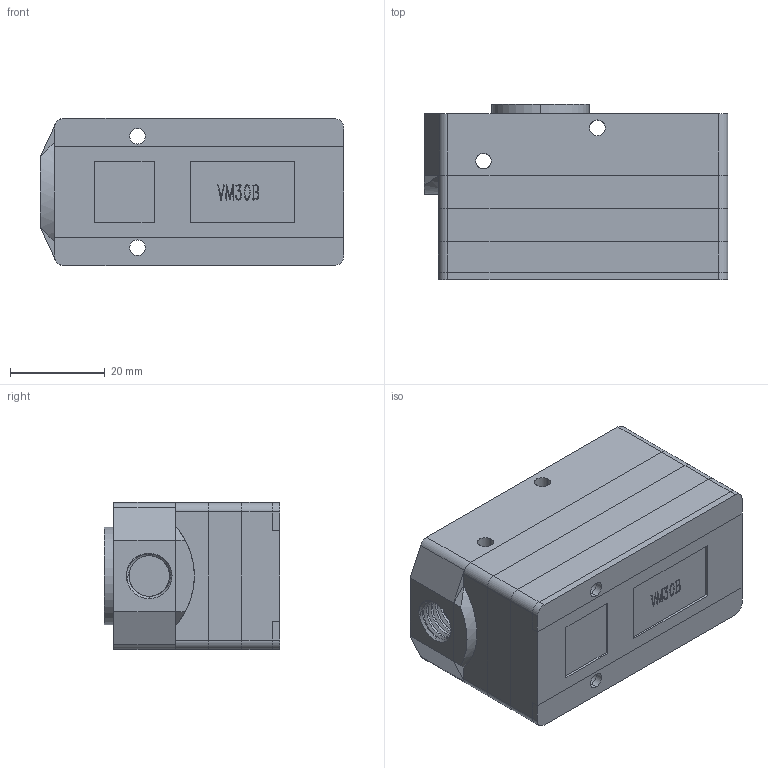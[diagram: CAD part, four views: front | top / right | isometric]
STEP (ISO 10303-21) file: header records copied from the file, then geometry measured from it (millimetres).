
FILE_DESCRIPTION (( 'STEP AP203' ), '1' );
FILE_NAME ('VM30B.STEP', '2022-12-05T03:03:18', ( '' ), ( '' ), 'SwSTEP 2.0', 'SolidWorks 2022', '' );
FILE_SCHEMA (( 'CONFIG_CONTROL_DESIGN' ));
Length unit declared in the file: millimetre
Products named in the file (1): VM30B
Bounding box: 64 x 37 x 31 mm (x, y, z)
Volume: 61059.2 mm3; surface area: 28698.2 mm2
Topology: 6 solids, 6 shells, 333 faces, 901 edges, 600 vertices
Faces by surface type: plane 172, cylinder 98, bspline 57, cone 6
Entity records: 19713 total; most frequent: CARTESIAN_POINT 11746, ORIENTED_EDGE 1802, DIRECTION 1345, EDGE_CURVE 901, VERTEX_POINT 600, LINE 551, VECTOR 551, AXIS2_PLACEMENT_3D 397
